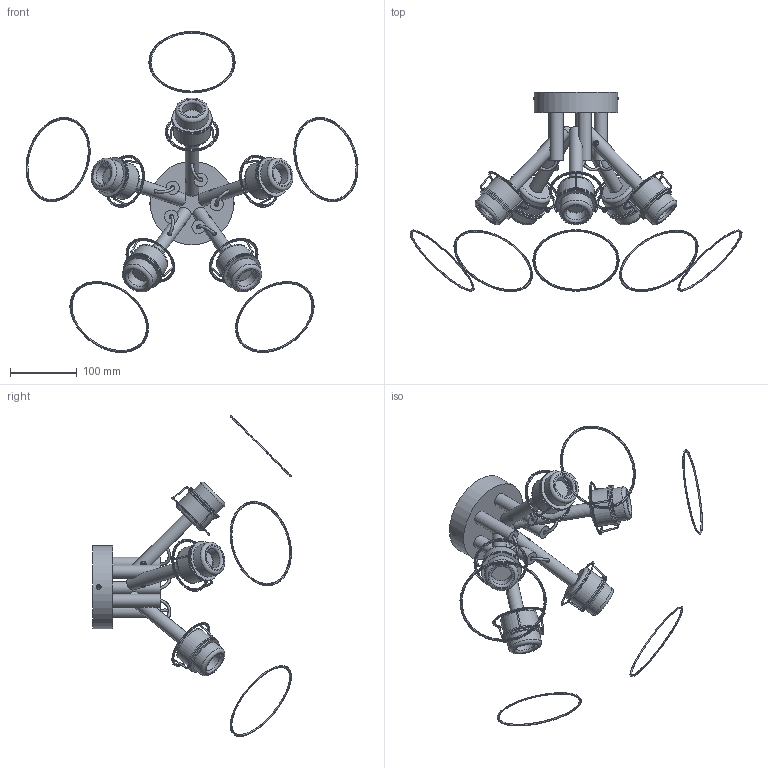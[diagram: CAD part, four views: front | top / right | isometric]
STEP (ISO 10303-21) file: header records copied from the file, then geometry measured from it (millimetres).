
FILE_DESCRIPTION(/* description */ (''),/* implementation_level */ '2;1');
FILE_NAME(/* name */ 'C:/Users/kubaw/OneDrive/Pulpit/TK_lighting - modele 2/OK/666_VAIO v4/666_VAIO v4.step',/* time_stamp */ '2021-04-02T07:00:49+02:00',/* author */ (''),/* organization */ (''),/* preprocessor_version */ 'ST-DEVELOPER v18.1',/* originating_system */ 'Autodesk Translation Framework v9.10.0.1330',/* authorisation */ '');
FILE_SCHEMA (('AUTOMOTIVE_DESIGN { 1 0 10303 214 3 1 1 }'));
Length unit declared in the file: millimetre
Products named in the file (3): 666_VAIO; ŚRUBA_VAIO; ŚRUBA_VAIO v4(Mirror)
Assembly tree (2 placements, depth 2):
  666_VAIO
    ŚRUBA_VAIO
    ŚRUBA_VAIO v4(Mirror)
Bounding box: 497.7 x 298.18 x 481.22 mm (x, y, z)
Volume: 1689587.3 mm3; surface area: 761524.8 mm2
Topology: 65 solids, 65 shells, 451 faces, 877 edges, 587 vertices
Faces by surface type: plane 246, cylinder 108, torus 65, bspline 17, cone 15
Full cylindrical faces by diameter (mm): 2 x30, 4 x5, 6 x10, 6.158 x2, 7 x7, 20 x10, 30 x5, 50 x5, 55 x5, 60 x10, 72.945 x5, 125 x1
Entity records: 13513 total; most frequent: CARTESIAN_POINT 3843, DIRECTION 2130, ORIENTED_EDGE 1754, AXIS2_PLACEMENT_3D 889, EDGE_CURVE 877, VERTEX_POINT 587, EDGE_LOOP 502, FACE_OUTER_BOUND 451
